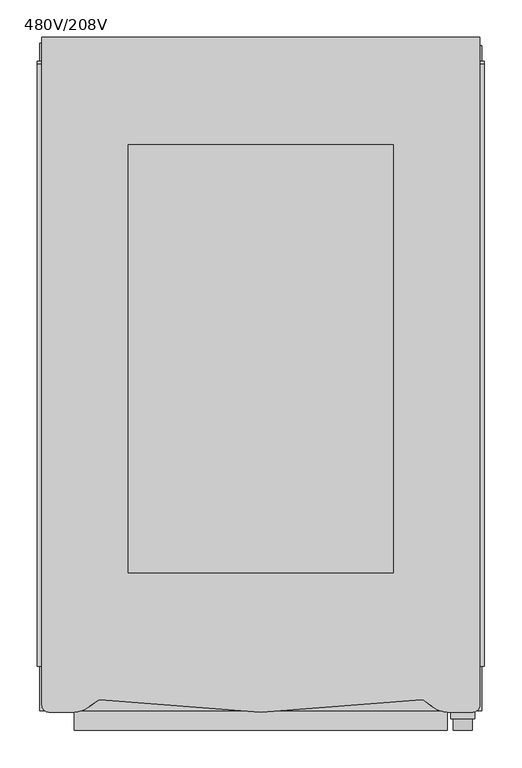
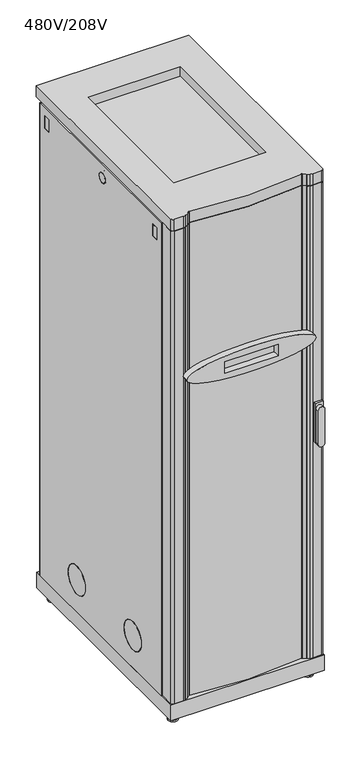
"""IFC4 building model written with IfcOpenShell, lengths in millimetres: proxy geometry, PD40G6FK1-M_-_InfraStruxure_PDU_40kW,_480V_In,_208V_Out_with_MBP_BIM_MODEL : 480V/208V."""

import ifcopenshell
import ifcopenshell.guid

model = None  # the IFC model being written
_history = None  # IfcOwnerHistory: only IFC2X3 demands one
_inside = {}  # id of a spatial element -> (the spatial element, [elements in it])
_under = {}  # id of a project, library or spatial element -> (it, [spatial elements below it])
_declared = {}  # id of a project -> (the project, [libraries it declares])
_typed = {}  # id of a type object -> (the type object, [elements of that type])
_made_of = {}  # id of a material, layer set ... -> (it, [elements and type objects made of it])


def new_model(schema):
    """Start an empty IFC model of exactly this schema.

    Asked for "IFC4X3", IfcOpenShell would pick the latest addendum, in which some entities
    have other attributes; the version numbers below select the first issue.
    IFC2X3 requires an IfcOwnerHistory on every rooted entity: one is made here for all.
    """
    global model, _history
    if schema == "IFC4X3":
        model = ifcopenshell.file(schema_version=(4, 3, 0, 0))
    else:
        model = ifcopenshell.file(schema=schema)
    _inside.clear()
    _under.clear()
    _declared.clear()
    _typed.clear()
    _made_of.clear()
    _history = None
    if model.schema == "IFC2X3":
        org = make("IfcOrganization", Name="unknown")
        user = make(
            "IfcPersonAndOrganization",
            ThePerson=make("IfcPerson", FamilyName="unknown"),
            TheOrganization=org,
        )
        app = make(
            "IfcApplication",
            ApplicationDeveloper=org,
            Version="unknown",
            ApplicationFullName="unknown",
            ApplicationIdentifier="unknown",
        )
        _history = make(
            "IfcOwnerHistory",
            OwningUser=user,
            OwningApplication=app,
            ChangeAction="ADDED",
            CreationDate=0,
        )
    return model


def make(cls, **values):
    """One entity of the class cls with the attributes given. An attribute that is None is left unset."""
    return model.create_entity(
        cls, **{name: value for name, value in values.items() if value is not None}
    )


def rooted(cls, **values):
    """An entity with a GlobalId (a new one), such as an element, a storey or a relation."""
    return make(cls, GlobalId=ifcopenshell.guid.new(), OwnerHistory=_history, **values)


def si_unit(unit_type, name, prefix=None):
    """IfcSIUnit, for example si_unit("LENGTHUNIT", "METRE", prefix="MILLI")."""
    return make("IfcSIUnit", UnitType=unit_type, Prefix=prefix, Name=name)


def assignment(units):
    """IfcUnitAssignment: the units of a project."""
    return None if units is None else make("IfcUnitAssignment", Units=units)


def point(xyz):
    """IfcCartesianPoint."""
    return None if xyz is None else make("IfcCartesianPoint", Coordinates=xyz)


def direction(xyz):
    """IfcDirection."""
    return None if xyz is None else make("IfcDirection", DirectionRatios=xyz)


def frame(location, z_axis=None, x_axis=None):
    """IfcAxis2Placement3D, a coordinate frame: its origin and axes. An axis left out is left unset."""
    return make(
        "IfcAxis2Placement3D",
        Location=point(location),
        Axis=direction(z_axis),
        RefDirection=direction(x_axis),
    )


def frame_2d(location, x_axis=None):
    """IfcAxis2Placement2D, a coordinate frame in the plane: its origin and x axis."""
    return make(
        "IfcAxis2Placement2D", Location=point(location), RefDirection=direction(x_axis)
    )


def origin():
    """The frame at (0, 0, 0) with its axes left unset."""
    return frame((0.0, 0.0, 0.0))


def origin_with_axes():
    """The frame at (0, 0, 0) with the z axis (0, 0, 1) and the x axis (1, 0, 0) written out."""
    return frame((0.0, 0.0, 0.0), z_axis=(0.0, 0.0, 1.0), x_axis=(1.0, 0.0, 0.0))


def place(relative_to, where):
    """IfcLocalPlacement: puts the frame where relative to a parent placement (None: the world)."""
    return make(
        "IfcLocalPlacement", PlacementRelTo=relative_to, RelativePlacement=where
    )


def context(
    kind, dimensions, precision=None, world=None, true_north=None, identifier=None
):
    """IfcGeometricRepresentationContext, for example the 3D "Model" context."""
    return make(
        "IfcGeometricRepresentationContext",
        ContextIdentifier=identifier,
        ContextType=kind,
        CoordinateSpaceDimension=dimensions,
        Precision=precision,
        WorldCoordinateSystem=world,
        TrueNorth=true_north,
    )


def project(units=None, contexts=None):
    """IfcProject with its units and contexts."""
    return rooted(
        "IfcProject",
        Name="project",
        RepresentationContexts=contexts,
        UnitsInContext=assignment(units),
    )


def spatial(cls, under=None, at=None, **own):
    """A site, building, storey or space (cls), placed at a placement, below another one or the project."""
    s = rooted(cls, ObjectPlacement=at, **own)
    if under is not None:
        _under.setdefault(under.id(), (under, []))[1].append(s)
    return s


def polyline(points):
    """IfcPolyline through the points."""
    return make("IfcPolyline", Points=[point(p) for p in points])


def circle_curve(where, radius):
    """IfcCircle in the frame where."""
    return make("IfcCircle", Position=where, Radius=radius)


def ellipse_curve(where, semi_axis1, semi_axis2):
    """IfcEllipse in the frame where."""
    return make(
        "IfcEllipse", Position=where, SemiAxis1=semi_axis1, SemiAxis2=semi_axis2
    )


def trimmed(basis, trim1, trim2, sense, master):
    """IfcTrimmedCurve: the piece of a basis curve between two trims."""
    return make(
        "IfcTrimmedCurve",
        BasisCurve=basis,
        Trim1=trim1,
        Trim2=trim2,
        SenseAgreement=sense,
        MasterRepresentation=master,
    )


def segment(curve, same_sense, transition):
    """IfcCompositeCurveSegment."""
    return make(
        "IfcCompositeCurveSegment",
        Transition=transition,
        SameSense=same_sense,
        ParentCurve=curve,
    )


def composite_curve(segments, self_intersect=None):
    """IfcCompositeCurve: segments joined end to end."""
    return make("IfcCompositeCurve", Segments=segments, SelfIntersect=self_intersect)


def outline(outer, holes=None, kind="AREA"):
    """IfcArbitraryClosedProfileDef: a profile drawn as a closed curve; with holes, ...WithVoids."""
    if holes is None:
        return make("IfcArbitraryClosedProfileDef", ProfileType=kind, OuterCurve=outer)
    return make(
        "IfcArbitraryProfileDefWithVoids",
        ProfileType=kind,
        OuterCurve=outer,
        InnerCurves=holes,
    )


def extrude(swept, where, along, depth):
    """IfcExtrudedAreaSolid: the profile swept, set in the frame where, extruded along a direction by depth."""
    return make(
        "IfcExtrudedAreaSolid",
        SweptArea=swept,
        Position=where,
        ExtrudedDirection=direction(along),
        Depth=depth,
    )


def shape(context_of_items, identifier, shape_type, items):
    """IfcShapeRepresentation: the items that make up one representation, for example the "Body"."""
    return make(
        "IfcShapeRepresentation",
        ContextOfItems=context_of_items,
        RepresentationIdentifier=identifier,
        RepresentationType=shape_type,
        Items=items,
    )


def source(mapping_origin, context_of_items, identifier, shape_type, items):
    """IfcRepresentationMap: a shape defined once, which mapped items show again and again."""
    return make(
        "IfcRepresentationMap",
        MappingOrigin=mapping_origin,
        MappedRepresentation=shape(context_of_items, identifier, shape_type, items),
    )


def transform(
    local_origin,
    x_axis=None,
    y_axis=None,
    z_axis=None,
    scale=None,
    scale2=None,
    scale3=None,
    uniform=True,
):
    """IfcCartesianTransformationOperator3D, or its non-uniform kind. x_axis, y_axis, z_axis: its Axis1, 2, 3."""
    if uniform:
        return make(
            "IfcCartesianTransformationOperator3D",
            Axis1=direction(x_axis),
            Axis2=direction(y_axis),
            LocalOrigin=point(local_origin),
            Scale=scale,
            Axis3=direction(z_axis),
        )
    return make(
        "IfcCartesianTransformationOperator3DnonUniform",
        Axis1=direction(x_axis),
        Axis2=direction(y_axis),
        LocalOrigin=point(local_origin),
        Scale=scale,
        Axis3=direction(z_axis),
        Scale2=scale2,
        Scale3=scale3,
    )


def mapped(mapping_source, mapping_target):
    """IfcMappedItem: shows the shape of a source again, moved by a transform."""
    return make(
        "IfcMappedItem", MappingSource=mapping_source, MappingTarget=mapping_target
    )


def made_of(thing, what):
    """Note that an element or type object is made of a material, layer set ...; save() writes the relation."""
    if what is not None:
        _made_of.setdefault(what.id(), (what, []))[1].append(thing)
    return thing


def element(
    cls,
    number,
    at=None,
    inside=None,
    cuts=None,
    type_object=None,
    material=None,
    context=None,
    identifier="Body",
    shape_type=None,
    held_by="IfcProductDefinitionShape",
    body=None,
    shapes=None,
    **own,
):
    """One element of the class cls, such as IfcWall. Its Tag is "e" and its number.

    at: its placement. inside: the storey or other place that contains it. cuts: it is an
    opening in that element (IfcRelVoidsElement). A single representation is given by context,
    identifier, shape_type and body (its items); several are given by shapes. held_by: the class
    of the entity that holds the representations. save() writes the other relations.
    """
    e = rooted(cls, Tag="e%d" % number, ObjectPlacement=at, **own)
    if body is not None:
        shapes = [shape(context, identifier, shape_type, body)]
    if shapes is not None:
        e.Representation = make(held_by, Representations=shapes)
    if inside is not None:
        _inside.setdefault(inside.id(), (inside, []))[1].append(e)
    if cuts is not None:
        rooted(
            "IfcRelVoidsElement", RelatingBuildingElement=cuts, RelatedOpeningElement=e
        )
    if type_object is not None:
        _typed.setdefault(type_object.id(), (type_object, []))[1].append(e)
    return made_of(e, material)


def aggregate(whole, parts):
    """IfcRelAggregates: a whole, such as a stair, and the parts it consists of."""
    return rooted("IfcRelAggregates", RelatingObject=whole, RelatedObjects=parts)


def save(model, path):
    """Write the relations noted so far, then the file.

    IfcRelAggregates (storeys below a building ...), IfcRelContainedInSpatialStructure (elements
    in a storey), IfcRelDefinesByType, IfcRelAssociatesMaterial and IfcRelDeclares: one each for
    every whole, place, type object, material and project.
    """
    for whole, parts in _under.values():
        aggregate(whole, parts)
    for where, things in _inside.values():
        rooted(
            "IfcRelContainedInSpatialStructure",
            RelatedElements=things,
            RelatingStructure=where,
        )
    for kind, things in _typed.values():
        rooted("IfcRelDefinesByType", RelatedObjects=things, RelatingType=kind)
    for what, things in _made_of.values():
        rooted("IfcRelAssociatesMaterial", RelatedObjects=things, RelatingMaterial=what)
    for by, libraries in _declared.values():
        rooted("IfcRelDeclares", RelatingContext=by, RelatedDefinitions=libraries)
    model.write(path)


def plane_surface(at):
    """IfcPlane: the flat surface through the origin of the frame at, square to its z axis."""
    return make("IfcPlane", Position=at)


def extruded_surface(curve, direction_of_extrusion, depth):
    """IfcSurfaceOfLinearExtrusion: the curve pushed along a direction by depth."""
    return make(
        "IfcSurfaceOfLinearExtrusion",
        SweptCurve=make("IfcArbitraryOpenProfileDef", ProfileType="CURVE", Curve=curve),
        ExtrudedDirection=direction(direction_of_extrusion),
        Depth=depth,
    )


def advanced_brep(points, edges, surfaces, faces):
    """IfcAdvancedBrep: a solid bounded by faces that lie on surfaces and meet in shared edges.

    An edge is (start, end): straight between two places in points (the first is 0);
    or (start, end, curve); or (start, end, curve, False) where it runs against its curve.
    A face is (place in surfaces, loops), or (place, loops, False) where it looks against
    its surface's normal. A loop lists edges by number (the first is 1), with a minus sign
    where the edge is run from its end to its start. The first loop is the outer one.
    """
    corners = [point(p) for p in points]
    vertices = [make("IfcVertexPoint", VertexGeometry=c) for c in corners]
    made = []
    for start, end, *more in edges:
        made.append(
            make(
                "IfcEdgeCurve",
                EdgeStart=vertices[start],
                EdgeEnd=vertices[end],
                EdgeGeometry=more[0] if more else make("IfcPolyline", Points=[corners[start], corners[end]]),
                SameSense=more[1] if len(more) > 1 else True,
            )
        )
    hull = []
    for where, loops, *sense in faces:
        bounds = []
        for j, loop in enumerate(loops):
            ring = [make("IfcOrientedEdge", EdgeElement=made[abs(k) - 1], Orientation=k > 0) for k in loop]
            bounds.append(
                make(
                    "IfcFaceOuterBound" if j == 0 else "IfcFaceBound",
                    Bound=make("IfcEdgeLoop", EdgeList=ring),
                    Orientation=True,
                )
            )
        hull.append(make("IfcAdvancedFace", Bounds=bounds, FaceSurface=surfaces[where], SameSense=sense[0] if sense else True))
    return make("IfcAdvancedBrep", Outer=make("IfcClosedShell", CfsFaces=hull))


def proxy_480v_208v_dbe15ef4(model_context):
    return source(origin(), model_context, "Body", "SolidModel", [
        extrude(outline(polyline([(414.7000054, 99.702742), (-389.5082623, 99.702742), (-389.5082623, 2021.2590782), (414.7000054, 2021.2590782), (414.7000054, 99.702742)]), holes=[composite_curve([segment(trimmed(circle_curve(frame_2d((-201.3783083, 230.7999995)), 57.1499999), [point((-258.5283082, 230.7999995))], [point((-144.2283084, 230.7999995))], True, "CARTESIAN"), True, "CONTINUOUS"), segment(trimmed(circle_curve(frame_2d((-201.3783083, 230.7999995)), 57.1499999), [point((-144.2283084, 230.7999995))], [point((-258.5283082, 230.7999995))], True, "CARTESIAN"), True, "CONTINUOUS")], self_intersect=False), composite_curve([segment(trimmed(circle_curve(frame_2d((171.2953487, 230.7999995)), 57.1499999), [point((114.1453488, 230.7999995))], [point((228.4453485, 230.7999995))], True, "CARTESIAN"), True, "CONTINUOUS"), segment(trimmed(circle_curve(frame_2d((171.2953487, 230.7999995)), 57.1499999), [point((228.4453485, 230.7999995))], [point((114.1453488, 230.7999995))], True, "CARTESIAN"), True, "CONTINUOUS")], self_intersect=False), composite_curve([segment(trimmed(circle_curve(frame_2d((1.9235813, 1968.4381228)), 20.2017411), [point((-18.2781598, 1968.4381228))], [point((22.1253224, 1968.4381228))], True, "CARTESIAN"), True, "CONTINUOUS"), segment(trimmed(circle_curve(frame_2d((1.9235813, 1968.4381228)), 20.2017411), [point((22.1253224, 1968.4381228))], [point((-18.2781598, 1968.4381228))], True, "CARTESIAN"), True, "CONTINUOUS")], self_intersect=False), polyline([(-361.9797683, 1937.7537767), (-335.0558222, 1937.7537767), (-335.0558222, 1986.7756787), (-361.9797683, 1986.7756787), (-361.9797683, 1937.7537767)]), polyline([(358.6741861, 1938.5244816), (384.174186, 1938.5244816), (384.174186, 1988.5463835), (358.6741861, 1988.5463835), (358.6741861, 1938.5244816)])]), frame((285.0, 0.0, 0.0), z_axis=(1.0, 0.0, 0.0), x_axis=(0.0, 1.0, 0.0)), (0.0, 0.0, 1.0), 13.5),
        extrude(outline(composite_curve([segment(trimmed(circle_curve(frame_2d((171.2953487, 230.7999995)), 56.1499999), [point((227.4453485, 230.7999995))], [point((115.1453488, 230.7999995))], False, "CARTESIAN"), True, "CONTINUOUS"), segment(trimmed(circle_curve(frame_2d((171.2953487, 230.7999995)), 56.1499999), [point((115.1453488, 230.7999995))], [point((227.4453485, 230.7999995))], False, "CARTESIAN"), True, "CONTINUOUS")], self_intersect=False)), frame((285.0, 0.0, 0.0), z_axis=(1.0, 0.0, 0.0), x_axis=(0.0, 1.0, 0.0)), (0.0, 0.0, 1.0), 13.5),
        extrude(outline(composite_curve([segment(trimmed(circle_curve(frame_2d((-201.3783083, 230.7999995)), 56.1499999), [point((-257.5283082, 230.7999995))], [point((-145.2283084, 230.7999995))], False, "CARTESIAN"), True, "CONTINUOUS"), segment(trimmed(circle_curve(frame_2d((-201.3783083, 230.7999995)), 56.1499999), [point((-145.2283084, 230.7999995))], [point((-257.5283082, 230.7999995))], False, "CARTESIAN"), True, "CONTINUOUS")], self_intersect=False)), frame((285.0, 0.0, 0.0), z_axis=(1.0, 0.0, 0.0), x_axis=(0.0, 1.0, 0.0)), (0.0, 0.0, 1.0), 13.5),
        extrude(outline(polyline([(285.0, 359.6741861), (285.0, 383.174186), (298.5, 383.174186), (298.5, 359.6741861), (285.0, 359.6741861)])), frame((0.0, 0.0, 1939.5275841), z_axis=(0.0, 0.0, 1.0), x_axis=(1.0, 0.0, 0.0)), (0.0, 0.0, 1.0), 48.0187994),
        extrude(outline(composite_curve([segment(trimmed(circle_curve(frame_2d((1.9235813, 1968.4381228)), 19.2017411), [point((21.1253224, 1968.4381228))], [point((-17.2781598, 1968.4381228))], False, "CARTESIAN"), True, "CONTINUOUS"), segment(trimmed(circle_curve(frame_2d((1.9235813, 1968.4381228)), 19.2017411), [point((-17.2781598, 1968.4381228))], [point((21.1253224, 1968.4381228))], False, "CARTESIAN"), True, "CONTINUOUS")], self_intersect=False)), frame((285.0, 0.0, 0.0), z_axis=(1.0, 0.0, 0.0), x_axis=(0.0, 1.0, 0.0)), (0.0, 0.0, 1.0), 13.5),
        extrude(outline(polyline([(285.0, -360.9317847), (285.0, -336.0095212), (298.5, -336.0095212), (298.5, -360.9317847), (285.0, -360.9317847)])), frame((0.0, 0.0, 1938.7718505), z_axis=(0.0, 0.0, 1.0), x_axis=(1.0, 0.0, 0.0)), (0.0, 0.0, 1.0), 47.0038282),
        extrude(outline(polyline([(-167.0499998, -322.6499942), (-167.0499998, 440.0415445), (167.0499998, 440.0415445), (167.0499998, -322.6499942), (-167.0499998, -322.6499942)])), frame((0.0, 0.0, 32.5499999), z_axis=(0.0, 0.0, 1.0), x_axis=(1.0, 0.0, 0.0)), (0.0, 0.0, 1.0), 60.2999999),
        extrude(outline(polyline([(-295.2744088, -448.9566775), (-295.2744088, 443.2000045), (-167.0499998, 443.2000045), (-167.0499998, -322.6499942), (167.0499998, -322.6499942), (167.0499998, 440.0415445), (295.2744088, 440.0415445), (295.2744088, -448.9566775), (-295.2744088, -448.9566775)]), holes=[composite_curve([segment(trimmed(circle_curve(frame_2d((241.9999995, -165.9499942)), 29.9999999), [point((241.9999995, -195.9499942))], [point((241.9999995, -135.9499943))], True, "CARTESIAN"), True, "CONTINUOUS"), segment(polyline([(241.9999995, -135.9499943), (219.5999996, -135.9499943)]), True, "CONTINUOUS"), segment(trimmed(circle_curve(frame_2d((219.5999996, -165.9499942)), 29.9999999), [point((219.5999996, -135.9499943))], [point((219.5999996, -195.9499942))], True, "CARTESIAN"), True, "CONTINUOUS"), segment(polyline([(219.5999996, -195.9499942), (241.9999995, -195.9499942)]), True, "CONTINUOUS")], self_intersect=False), composite_curve([segment(trimmed(circle_curve(frame_2d((241.9999995, 160.0500051)), 29.9999999), [point((241.9999995, 130.0500052))], [point((241.9999995, 190.0500051))], True, "CARTESIAN"), True, "CONTINUOUS"), segment(polyline([(241.9999995, 190.0500051), (219.5999996, 190.0500051)]), True, "CONTINUOUS"), segment(trimmed(circle_curve(frame_2d((219.5999996, 160.0500051)), 29.9999999), [point((219.5999996, 190.0500051))], [point((219.5999996, 130.0500052))], True, "CARTESIAN"), True, "CONTINUOUS"), segment(polyline([(219.5999996, 130.0500052), (241.9999995, 130.0500052)]), True, "CONTINUOUS")], self_intersect=False), composite_curve([segment(trimmed(circle_curve(frame_2d((-219.5999996, 160.0500051)), 29.9999999), [point((-219.5999996, 130.0500052))], [point((-219.5999996, 190.0500051))], True, "CARTESIAN"), True, "CONTINUOUS"), segment(polyline([(-219.5999996, 190.0500051), (-241.9999995, 190.0500051)]), True, "CONTINUOUS"), segment(trimmed(circle_curve(frame_2d((-241.9999995, 160.0500051)), 29.9999999), [point((-241.9999995, 190.0500051))], [point((-241.9999995, 130.0500052))], True, "CARTESIAN"), True, "CONTINUOUS"), segment(polyline([(-241.9999995, 130.0500052), (-219.5999996, 130.0500052)]), True, "CONTINUOUS")], self_intersect=False), composite_curve([segment(trimmed(circle_curve(frame_2d((-241.9999995, -165.9499942)), 30.9999999), [point((-241.9999995, -134.9499943))], [point((-241.9999995, -196.9499942))], True, "CARTESIAN"), True, "CONTINUOUS"), segment(polyline([(-241.9999995, -196.9499942), (-219.5999996, -196.9499942)]), True, "CONTINUOUS"), segment(trimmed(circle_curve(frame_2d((-219.5999996, -165.9499942)), 30.9999999), [point((-219.5999996, -196.9499942))], [point((-219.5999996, -134.9499943))], True, "CARTESIAN"), True, "CONTINUOUS"), segment(polyline([(-219.5999996, -134.9499943), (-241.9999995, -134.9499943)]), True, "CONTINUOUS")], self_intersect=False)]), frame((0.0, 0.0, 32.5499999), z_axis=(0.0, 0.0, 1.0), x_axis=(1.0, 0.0, 0.0)), (0.0, 0.0, 1.0), 62.7001682),
        extrude(outline(composite_curve([segment(trimmed(circle_curve(frame_2d((-219.5999996, -165.9499942)), 29.9999999), [point((-219.5999996, -135.9499943))], [point((-219.5999996, -195.9499942))], False, "CARTESIAN"), True, "CONTINUOUS"), segment(polyline([(-219.5999996, -195.9499942), (-241.9999995, -195.9499942)]), True, "CONTINUOUS"), segment(trimmed(circle_curve(frame_2d((-241.9999995, -165.9499942)), 29.9999999), [point((-241.9999995, -195.9499942))], [point((-241.9999995, -135.9499943))], False, "CARTESIAN"), True, "CONTINUOUS"), segment(polyline([(-241.9999995, -135.9499943), (-219.5999996, -135.9499943)]), True, "CONTINUOUS")], self_intersect=False)), frame((0.0, 0.0, 32.5499999), z_axis=(0.0, 0.0, 1.0), x_axis=(1.0, 0.0, 0.0)), (0.0, 0.0, 1.0), 62.7001682),
        extrude(outline(composite_curve([segment(trimmed(circle_curve(frame_2d((-219.5999996, 160.0500051)), 28.9999999), [point((-219.5999996, 189.0500051))], [point((-219.5999996, 131.0500052))], False, "CARTESIAN"), True, "CONTINUOUS"), segment(polyline([(-219.5999996, 131.0500052), (-241.9999995, 131.0500052)]), True, "CONTINUOUS"), segment(trimmed(circle_curve(frame_2d((-241.9999995, 160.0500051)), 28.9999999), [point((-241.9999995, 131.0500052))], [point((-241.9999995, 189.0500051))], False, "CARTESIAN"), True, "CONTINUOUS"), segment(polyline([(-241.9999995, 189.0500051), (-219.5999996, 189.0500051)]), True, "CONTINUOUS")], self_intersect=False)), frame((0.0, 0.0, 32.5499999), z_axis=(0.0, 0.0, 1.0), x_axis=(1.0, 0.0, 0.0)), (0.0, 0.0, 1.0), 62.7001682),
        extrude(outline(composite_curve([segment(polyline([(219.5999996, 189.0500051), (241.9999995, 189.0500051)]), True, "CONTINUOUS"), segment(trimmed(circle_curve(frame_2d((241.9999995, 160.0500051)), 28.9999999), [point((241.9999995, 189.0500051))], [point((241.9999995, 131.0500052))], False, "CARTESIAN"), True, "CONTINUOUS"), segment(polyline([(241.9999995, 131.0500052), (219.5999996, 131.0500052)]), True, "CONTINUOUS"), segment(trimmed(circle_curve(frame_2d((219.5999996, 160.0500051)), 28.9999999), [point((219.5999996, 131.0500052))], [point((219.5999996, 189.0500051))], False, "CARTESIAN"), True, "CONTINUOUS")], self_intersect=False)), frame((0.0, 0.0, 32.5499999), z_axis=(0.0, 0.0, 1.0), x_axis=(1.0, 0.0, 0.0)), (0.0, 0.0, 1.0), 62.7001682),
        extrude(outline(composite_curve([segment(polyline([(219.5999996, -136.9499943), (241.9999995, -136.9499943)]), True, "CONTINUOUS"), segment(trimmed(circle_curve(frame_2d((241.9999995, -165.9499942)), 28.9999999), [point((241.9999995, -136.9499943))], [point((241.9999995, -194.9499942))], False, "CARTESIAN"), True, "CONTINUOUS"), segment(polyline([(241.9999995, -194.9499942), (219.5999996, -194.9499942)]), True, "CONTINUOUS"), segment(trimmed(circle_curve(frame_2d((219.5999996, -165.9499942)), 28.9999999), [point((219.5999996, -194.9499942))], [point((219.5999996, -136.9499943))], False, "CARTESIAN"), True, "CONTINUOUS")], self_intersect=False)), frame((0.0, 0.0, 32.5499999), z_axis=(0.0, 0.0, 1.0), x_axis=(1.0, 0.0, 0.0)), (0.0, 0.0, 1.0), 62.7001682),
        extrude(outline(polyline([(261.8792345, 381.8662109), (-263.2951447, 381.8662109), (-263.2951447, 414.7000054), (261.8792345, 414.7000054), (261.8792345, 381.8662109)])), frame((0.0, 0.0, 132.0499997), z_axis=(0.0, 0.0, 1.0), x_axis=(1.0, 0.0, 0.0)), (0.0, 0.0, 1.0), 1869.9999962),
        extrude(outline(polyline([(414.7000054, 99.702742), (-389.5082623, 99.702742), (-389.5082623, 2021.2590782), (414.7000054, 2021.2590782), (414.7000054, 99.702742)]), holes=[composite_curve([segment(trimmed(circle_curve(frame_2d((-201.3783083, 230.7999995)), 57.1499999), [point((-258.5283082, 230.7999995))], [point((-144.2283084, 230.7999995))], True, "CARTESIAN"), True, "CONTINUOUS"), segment(trimmed(circle_curve(frame_2d((-201.3783083, 230.7999995)), 57.1499999), [point((-144.2283084, 230.7999995))], [point((-258.5283082, 230.7999995))], True, "CARTESIAN"), True, "CONTINUOUS")], self_intersect=False), composite_curve([segment(trimmed(circle_curve(frame_2d((171.2953487, 230.7999995)), 57.1499999), [point((114.1453488, 230.7999995))], [point((228.4453485, 230.7999995))], True, "CARTESIAN"), True, "CONTINUOUS"), segment(trimmed(circle_curve(frame_2d((171.2953487, 230.7999995)), 57.1499999), [point((228.4453485, 230.7999995))], [point((114.1453488, 230.7999995))], True, "CARTESIAN"), True, "CONTINUOUS")], self_intersect=False), composite_curve([segment(trimmed(circle_curve(frame_2d((1.9235813, 1968.4381228)), 20.2017411), [point((-18.2781598, 1968.4381228))], [point((22.1253224, 1968.4381228))], True, "CARTESIAN"), True, "CONTINUOUS"), segment(trimmed(circle_curve(frame_2d((1.9235813, 1968.4381228)), 20.2017411), [point((22.1253224, 1968.4381228))], [point((-18.2781598, 1968.4381228))], True, "CARTESIAN"), True, "CONTINUOUS")], self_intersect=False), polyline([(-361.9797683, 1937.7537767), (-335.0558222, 1937.7537767), (-335.0558222, 1986.7756787), (-361.9797683, 1986.7756787), (-361.9797683, 1937.7537767)]), polyline([(358.6741861, 1938.5244816), (384.174186, 1938.5244816), (384.174186, 1988.5463835), (358.6741861, 1988.5463835), (358.6741861, 1938.5244816)])]), frame((-298.5, 0.0, 0.0), z_axis=(1.0, 0.0, 0.0), x_axis=(0.0, 1.0, 0.0)), (0.0, 0.0, 1.0), 13.5),
        extrude(outline(composite_curve([segment(trimmed(circle_curve(frame_2d((171.2953487, 230.7999995)), 56.1499999), [point((227.4453485, 230.7999995))], [point((115.1453488, 230.7999995))], False, "CARTESIAN"), True, "CONTINUOUS"), segment(trimmed(circle_curve(frame_2d((171.2953487, 230.7999995)), 56.1499999), [point((115.1453488, 230.7999995))], [point((227.4453485, 230.7999995))], False, "CARTESIAN"), True, "CONTINUOUS")], self_intersect=False)), frame((-298.5, 0.0, 0.0), z_axis=(1.0, 0.0, 0.0), x_axis=(0.0, 1.0, 0.0)), (0.0, 0.0, 1.0), 13.5),
        extrude(outline(composite_curve([segment(trimmed(circle_curve(frame_2d((-201.3783083, 230.7999995)), 56.1499999), [point((-257.5283082, 230.7999995))], [point((-145.2283084, 230.7999995))], False, "CARTESIAN"), True, "CONTINUOUS"), segment(trimmed(circle_curve(frame_2d((-201.3783083, 230.7999995)), 56.1499999), [point((-145.2283084, 230.7999995))], [point((-257.5283082, 230.7999995))], False, "CARTESIAN"), True, "CONTINUOUS")], self_intersect=False)), frame((-298.5, 0.0, 0.0), z_axis=(1.0, 0.0, 0.0), x_axis=(0.0, 1.0, 0.0)), (0.0, 0.0, 1.0), 13.5),
        extrude(outline(polyline([(-285.0, 383.174186), (-285.0, 359.6741861), (-298.5, 359.6741861), (-298.5, 383.174186), (-285.0, 383.174186)])), frame((0.0, 0.0, 1939.5275841), z_axis=(0.0, 0.0, 1.0), x_axis=(1.0, 0.0, 0.0)), (0.0, 0.0, 1.0), 48.0187994),
        extrude(outline(composite_curve([segment(trimmed(circle_curve(frame_2d((1.9235813, 1968.4381228)), 19.2017411), [point((21.1253224, 1968.4381228))], [point((-17.2781598, 1968.4381228))], False, "CARTESIAN"), True, "CONTINUOUS"), segment(trimmed(circle_curve(frame_2d((1.9235813, 1968.4381228)), 19.2017411), [point((-17.2781598, 1968.4381228))], [point((21.1253224, 1968.4381228))], False, "CARTESIAN"), True, "CONTINUOUS")], self_intersect=False)), frame((-298.5, 0.0, 0.0), z_axis=(1.0, 0.0, 0.0), x_axis=(0.0, 1.0, 0.0)), (0.0, 0.0, 1.0), 13.5),
        extrude(outline(polyline([(-285.0, -336.0095212), (-285.0, -360.9317847), (-298.5, -360.9317847), (-298.5, -336.0095212), (-285.0, -336.0095212)])), frame((0.0, 0.0, 1938.7718505), z_axis=(0.0, 0.0, 1.0), x_axis=(1.0, 0.0, 0.0)), (0.0, 0.0, 1.0), 47.0038282),
        extrude(outline(polyline([(2021.2590782, 298.5), (2021.2590782, -298.5), (99.702742, -298.5), (99.702742, 298.5), (2021.2590782, 298.5)]), holes=[polyline([(2002.0499959, 259.5), (132.0499997, 259.5), (132.0499997, -259.5), (2002.0499959, -259.5), (2002.0499959, 259.5)])]), frame((0.0, 381.8662109, 0.0), z_axis=(0.0, 1.0, 0.0), x_axis=(0.0, 0.0, 1.0)), (0.0, 0.0, 1.0), 37.0058548),
        extrude(outline(composite_curve([segment(trimmed(circle_curve(frame_2d((-259.5, 398.0000054)), 4.445), [point((-258.712602, 393.6253021))], [point((-260.287402, 393.6253028))], False, "CARTESIAN"), True, "CONTINUOUS"), segment(trimmed(circle_curve(frame_2d((-259.5, 398.0000054)), 4.445), [point((-260.287402, 393.6253028))], [point((-260.287398, 402.3747088))], False, "CARTESIAN"), True, "CONTINUOUS"), segment(trimmed(circle_curve(frame_2d((-259.5, 398.0000054)), 4.445), [point((-260.287398, 402.3747088))], [point((-258.712598, 402.3747081))], False, "CARTESIAN"), True, "CONTINUOUS"), segment(trimmed(circle_curve(frame_2d((-259.5, 398.0000054)), 4.445), [point((-258.712598, 402.3747081))], [point((-258.712602, 393.6253021))], False, "CARTESIAN"), True, "CONTINUOUS")], self_intersect=False)), frame((0.0, 0.0, 5.3402431), z_axis=(0.0, 0.0, 1.0), x_axis=(1.0, 0.0, 0.0)), (0.0, 0.0, 1.0), 27.2097569),
        extrude(outline(composite_curve([segment(trimmed(circle_curve(frame_2d((259.5, 398.0000054)), 4.445), [point((258.712602, 393.6253021))], [point((258.712598, 402.3747081))], False, "CARTESIAN"), True, "CONTINUOUS"), segment(trimmed(circle_curve(frame_2d((259.5, 398.0000054)), 4.445), [point((258.712598, 402.3747081))], [point((260.287398, 402.3747088))], False, "CARTESIAN"), True, "CONTINUOUS"), segment(trimmed(circle_curve(frame_2d((259.5, 398.0000054)), 4.445), [point((260.287398, 402.3747088))], [point((260.287402, 393.6253028))], False, "CARTESIAN"), True, "CONTINUOUS"), segment(trimmed(circle_curve(frame_2d((259.5, 398.0000054)), 4.445), [point((260.287402, 393.6253028))], [point((258.712602, 393.6253021))], False, "CARTESIAN"), True, "CONTINUOUS")], self_intersect=False)), frame((0.0, 0.0, 5.3402431), z_axis=(0.0, 0.0, 1.0), x_axis=(1.0, 0.0, 0.0)), (0.0, 0.0, 1.0), 27.2097569),
        extrude(outline(composite_curve([segment(trimmed(circle_curve(frame_2d((-259.5, -399.9999946)), 4.445), [point((-258.712602, -395.6252912))], [point((-258.712598, -404.3746972))], False, "CARTESIAN"), True, "CONTINUOUS"), segment(trimmed(circle_curve(frame_2d((-259.5, -399.9999946)), 4.445), [point((-258.712598, -404.3746972))], [point((-260.287398, -404.3746979))], False, "CARTESIAN"), True, "CONTINUOUS"), segment(trimmed(circle_curve(frame_2d((-259.5, -399.9999946)), 4.445), [point((-260.287398, -404.3746979))], [point((-260.287402, -395.6252919))], False, "CARTESIAN"), True, "CONTINUOUS"), segment(trimmed(circle_curve(frame_2d((-259.5, -399.9999946)), 4.445), [point((-260.287402, -395.6252919))], [point((-258.712602, -395.6252912))], False, "CARTESIAN"), True, "CONTINUOUS")], self_intersect=False)), frame((0.0, 0.0, 5.3402431), z_axis=(0.0, 0.0, 1.0), x_axis=(1.0, 0.0, 0.0)), (0.0, 0.0, 1.0), 27.2097569),
        extrude(outline(composite_curve([segment(trimmed(circle_curve(frame_2d((259.5, -399.9999946)), 4.445), [point((258.712602, -395.6252912))], [point((260.287402, -395.6252919))], False, "CARTESIAN"), True, "CONTINUOUS"), segment(trimmed(circle_curve(frame_2d((259.5, -399.9999946)), 4.445), [point((260.287402, -395.6252919))], [point((260.287398, -404.3746979))], False, "CARTESIAN"), True, "CONTINUOUS"), segment(trimmed(circle_curve(frame_2d((259.5, -399.9999946)), 4.445), [point((260.287398, -404.3746979))], [point((258.712598, -404.3746972))], False, "CARTESIAN"), True, "CONTINUOUS"), segment(trimmed(circle_curve(frame_2d((259.5, -399.9999946)), 4.445), [point((258.712598, -404.3746972))], [point((258.712602, -395.6252912))], False, "CARTESIAN"), True, "CONTINUOUS")], self_intersect=False)), frame((0.0, 0.0, 5.3402431), z_axis=(0.0, 0.0, 1.0), x_axis=(1.0, 0.0, 0.0)), (0.0, 0.0, 1.0), 27.2097569),
        extrude(outline(composite_curve([segment(trimmed(circle_curve(frame_2d((-259.5, -400.6779682)), 18.6944), [point((-278.1944, -400.6779682))], [point((-240.8056, -400.6779682))], False, "CARTESIAN"), True, "CONTINUOUS"), segment(trimmed(circle_curve(frame_2d((-259.5, -400.6779682)), 18.6944), [point((-240.8056, -400.6779682))], [point((-278.1944, -400.6779682))], False, "CARTESIAN"), True, "CONTINUOUS")], self_intersect=False)), origin_with_axes(), (0.0, 0.0, 1.0), 5.3402431),
        extrude(outline(composite_curve([segment(trimmed(circle_curve(frame_2d((259.5, -400.6779682)), 18.6944), [point((240.8056, -400.6779682))], [point((278.1944, -400.6779682))], False, "CARTESIAN"), True, "CONTINUOUS"), segment(trimmed(circle_curve(frame_2d((259.5, -400.6779682)), 18.6944), [point((278.1944, -400.6779682))], [point((240.8056, -400.6779682))], False, "CARTESIAN"), True, "CONTINUOUS")], self_intersect=False)), origin_with_axes(), (0.0, 0.0, 1.0), 5.3402431),
        extrude(outline(composite_curve([segment(trimmed(circle_curve(frame_2d((259.5, 398.0000054)), 18.6944), [point((240.8056, 398.0000054))], [point((278.1944, 398.0000054))], False, "CARTESIAN"), True, "CONTINUOUS"), segment(trimmed(circle_curve(frame_2d((259.5, 398.0000054)), 18.6944), [point((278.1944, 398.0000054))], [point((240.8056, 398.0000054))], False, "CARTESIAN"), True, "CONTINUOUS")], self_intersect=False)), origin_with_axes(), (0.0, 0.0, 1.0), 5.3402431),
        extrude(outline(composite_curve([segment(trimmed(circle_curve(frame_2d((-259.5, 398.0000054)), 18.6944), [point((-278.1944, 398.0000054))], [point((-240.8056, 398.0000054))], False, "CARTESIAN"), True, "CONTINUOUS"), segment(trimmed(circle_curve(frame_2d((-259.5, 398.0000054)), 18.6944), [point((-240.8056, 398.0000054))], [point((-278.1944, 398.0000054))], False, "CARTESIAN"), True, "CONTINUOUS")], self_intersect=False)), origin_with_axes(), (0.0, 0.0, 1.0), 5.3402431),
        extrude(outline(composite_curve([segment(trimmed(circle_curve(frame_2d((287.7927507, 31.7499365)), 31.7499365), [point((256.0428143, 31.7499365))], [point((319.5426872, 31.7499365))], False, "CARTESIAN"), True, "CONTINUOUS"), segment(trimmed(circle_curve(frame_2d((287.7927507, 31.7499365)), 31.7499365), [point((319.5426872, 31.7499365))], [point((256.0428143, 31.7499365))], False, "CARTESIAN"), True, "CONTINUOUS")], self_intersect=False)), frame((-245.0186832, 0.0, 0.0), z_axis=(1.0, 0.0, 0.0), x_axis=(0.0, 1.0, 0.0)), (0.0, 0.0, 1.0), 45.7999999),
        extrude(outline(composite_curve([segment(trimmed(circle_curve(frame_2d((-296.4060803, 31.7499365)), 31.7499365), [point((-328.1560167, 31.7499365))], [point((-264.6561438, 31.7499365))], False, "CARTESIAN"), True, "CONTINUOUS"), segment(trimmed(circle_curve(frame_2d((-296.4060803, 31.7499365)), 31.7499365), [point((-264.6561438, 31.7499365))], [point((-328.1560167, 31.7499365))], False, "CARTESIAN"), True, "CONTINUOUS")], self_intersect=False)), frame((-245.0186832, 0.0, 0.0), z_axis=(1.0, 0.0, 0.0), x_axis=(0.0, 1.0, 0.0)), (0.0, 0.0, 1.0), 45.7999999),
        extrude(outline(composite_curve([segment(trimmed(circle_curve(frame_2d((287.7927507, 31.7499365)), 31.7499365), [point((256.0428143, 31.7499365))], [point((319.5426872, 31.7499365))], False, "CARTESIAN"), True, "CONTINUOUS"), segment(trimmed(circle_curve(frame_2d((287.7927507, 31.7499365)), 31.7499365), [point((319.5426872, 31.7499365))], [point((256.0428143, 31.7499365))], False, "CARTESIAN"), True, "CONTINUOUS")], self_intersect=False)), frame((216.5813159, 0.0, 0.0), z_axis=(1.0, 0.0, 0.0), x_axis=(0.0, 1.0, 0.0)), (0.0, 0.0, 1.0), 45.7999999),
        extrude(outline(composite_curve([segment(trimmed(circle_curve(frame_2d((-296.4060803, 31.7499365)), 31.7499365), [point((-328.1560167, 31.7499365))], [point((-264.6561438, 31.7499365))], False, "CARTESIAN"), True, "CONTINUOUS"), segment(trimmed(circle_curve(frame_2d((-296.4060803, 31.7499365)), 31.7499365), [point((-264.6561438, 31.7499365))], [point((-328.1560167, 31.7499365))], False, "CARTESIAN"), True, "CONTINUOUS")], self_intersect=False)), frame((216.5813159, 0.0, 0.0), z_axis=(1.0, 0.0, 0.0), x_axis=(0.0, 1.0, 0.0)), (0.0, 0.0, 1.0), 45.7999999),
        advanced_brep(
        [(249.3104162, -475.117365, 1417.8251615), (-249.3104162, -475.117365, 1417.8251615), (-103.1237935, -475.117365, 1394.076209), (-103.1237935, -475.117365, 1441.5741139), (103.1237935, -475.117365, 1441.5741139), (103.1237935, -475.117365, 1394.076209), (249.3104162, -449.7592645, 1417.8251615), (-249.3104162, -449.7592645, 1417.8251615), (-103.1237935, -449.7592645, 1394.076209), (103.1237935, -449.7592645, 1394.076209), (103.1237935, -449.7592645, 1441.5741139), (-103.1237935, -449.7592645, 1441.5741139)],
        [
            (0, 1, ellipse_curve(frame((0.0, -475.117365, 1417.8251615), z_axis=(0.0, -1.0, 0.0), x_axis=(-1.0, 0.0, 0.0)), 249.3104162, 50.0)),
            (1, 0, ellipse_curve(frame((0.0, -475.117365, 1417.8251615), z_axis=(0.0, -1.0, 0.0), x_axis=(-1.0, 0.0, 0.0)), 249.3104162, 50.0)),
            (2, 3),
            (3, 4),
            (4, 5),
            (5, 2),
            (6, 7, ellipse_curve(frame((0.0, -449.7592645, 1417.8251615), z_axis=(0.0, 1.0, 0.0), x_axis=(-1.0, 0.0, 0.0)), 249.3104162, 50.0)),
            (7, 6, ellipse_curve(frame((0.0, -449.7592645, 1417.8251615), z_axis=(0.0, 1.0, 0.0), x_axis=(-1.0, 0.0, 0.0)), 249.3104162, 50.0)),
            (8, 9),
            (9, 10),
            (10, 11),
            (11, 8),
            (2, 8),
            (11, 3),
            (10, 4),
            (9, 5),
            (0, 6),
            (7, 1),
        ],
        [
            plane_surface(frame((-103.1237935, -475.117365, 1394.076209), z_axis=(0.0, -1.0, 0.0), x_axis=(0.0, 0.0, 1.0))),
            plane_surface(frame((-103.1237935, -449.7592645, 1394.076209), z_axis=(0.0, 1.0, 0.0), x_axis=(0.0, 0.0, -1.0))),
            plane_surface(frame((-103.1237935, -475.117365, 1394.076209), z_axis=(1.0, 0.0, 0.0), x_axis=(0.0, 1.0, 0.0))),
            plane_surface(frame((-103.1237935, -475.117365, 1441.5741139), z_axis=(0.0, 0.0, -1.0), x_axis=(0.0, 1.0, 0.0))),
            plane_surface(frame((103.1237935, -475.117365, 1441.5741139), z_axis=(-1.0, 0.0, 0.0), x_axis=(0.0, 1.0, 0.0))),
            plane_surface(frame((103.1237935, -475.117365, 1394.076209), z_axis=(0.0, 0.0, 1.0), x_axis=(0.0, 1.0, 0.0))),
            extruded_surface(trimmed(ellipse_curve(frame((0.0, 25.3581059, 1417.8251615), z_axis=(0.0, -1.0, 0.0), x_axis=(-1.0, 0.0, 0.0)), 249.3104162, 50.0), [point((249.3104162, 25.3581059, 1417.8251615))], [point((-249.3104162, 25.3581059, 1417.8251615))], True, "CARTESIAN"), (0.0, -25.358100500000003, 0.0), 25.358100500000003),
            extruded_surface(trimmed(ellipse_curve(frame((0.0, 25.3581059, 1417.8251615), z_axis=(0.0, -1.0, 0.0), x_axis=(-1.0, 0.0, 0.0)), 249.3104162, 50.0), [point((-249.3104162, 25.3581059, 1417.8251615))], [point((249.3104162, 25.3581059, 1417.8251615))], True, "CARTESIAN"), (0.0, -25.358100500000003, 0.0), 25.358100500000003),
        ],
        [
            (0, [[1, 2], [3, 4, 5, 6]]),
            (1, [[7, 8], [9, 10, 11, 12]]),
            (2, [[-3, 13, -12, 14]]),
            (3, [[-4, -14, -11, 15]]),
            (4, [[-5, -15, -10, 16]]),
            (5, [[-6, -16, -9, -13]]),
            (6, [[-1, 17, -8, 18]]),
            (7, [[-2, -18, -7, -17]]),
        ],
    ),
        extrude(outline(composite_curve([segment(polyline([(977.8980422, 282.5871342), (1114.4227689, 282.5871342)]), True, "CONTINUOUS"), segment(trimmed(circle_curve(frame_2d((1114.4227689, 269.8871597)), 12.6999746), [point((1114.4227689, 282.5871342))], [point((1114.4227689, 257.1871851))], False, "CARTESIAN"), True, "CONTINUOUS"), segment(polyline([(1114.4227689, 257.1871851), (977.8980422, 257.1871851)]), True, "CONTINUOUS"), segment(trimmed(circle_curve(frame_2d((977.8980422, 269.8871597)), 12.6999746), [point((977.8980422, 257.1871851))], [point((977.8980422, 282.5871342))], False, "CARTESIAN"), True, "CONTINUOUS")], self_intersect=False)), frame((0.0, -475.117365, 0.0), z_axis=(0.0, 1.0, 0.0), x_axis=(0.0, 0.0, 1.0)), (0.0, 0.0, 1.0), 15.8749682),
        extrude(outline(polyline([(285.7621279, -459.2423968), (254.0121915, -459.2423968), (254.0121915, -450.9999946), (285.7621279, -450.9999946), (285.7621279, -459.2423968)])), frame((0.0, 0.0, 977.8980422), z_axis=(0.0, 0.0, 1.0), x_axis=(1.0, 0.0, 0.0)), (0.0, 0.0, 1.0), 158.7496822),
        extrude(outline(composite_curve([segment(trimmed(circle_curve(frame_2d((-249.0618239, -424.4999937)), 26.1999999), [point((-240.1079391, -449.1225026))], [point((-249.0618239, -450.6999936))], False, "CARTESIAN"), True, "CONTINUOUS"), segment(polyline([(-249.0618239, -450.6999936), (-283.2999994, -450.6999936)]), True, "CONTINUOUS"), segment(trimmed(circle_curve(frame_2d((-283.2999994, -441.4999937)), 9.2), [point((-283.2999994, -450.6999936))], [point((-292.4999994, -441.4999937))], False, "CARTESIAN"), True, "CONTINUOUS"), segment(polyline([(-292.4999994, -441.4999937), (-292.4999994, -389.5082623), (292.4999994, -389.5082623), (292.4999994, -441.4999937)]), True, "CONTINUOUS"), segment(trimmed(circle_curve(frame_2d((283.2999994, -441.4999937)), 9.2), [point((292.4999994, -441.4999937))], [point((283.2999994, -450.6999936))], False, "CARTESIAN"), True, "CONTINUOUS"), segment(polyline([(283.2999994, -450.6999936), (249.0618239, -450.6999936)]), True, "CONTINUOUS"), segment(trimmed(circle_curve(frame_2d((249.0618239, -424.4999937)), 26.1999999), [point((249.0618239, -450.6999936))], [point((240.1079391, -449.1225026))], False, "CARTESIAN"), True, "CONTINUOUS"), segment(polyline([(240.1079391, -449.1225026), (239.1681487, -448.7807512)]), True, "CONTINUOUS"), segment(trimmed(circle_curve(frame_2d((251.8812982, -413.8205478)), 37.1999999), [point((239.1681487, -448.7807512))], [point((229.9804826, -443.8903711))], False, "CARTESIAN"), True, "CONTINUOUS"), segment(polyline([(229.9804826, -443.8903711), (229.172154, -443.3016395)]), True, "CONTINUOUS"), segment(trimmed(circle_curve(frame_2d((72.0985629, -658.9637054)), 266.7999995), [point((229.172154, -443.3016395))], [point((217.4082572, -435.2063984))], True, "CARTESIAN"), True, "CONTINUOUS"), segment(polyline([(217.4082572, -435.2063984), (216.2058971, -434.4255766)]), True, "CONTINUOUS"), segment(trimmed(circle_curve(frame_2d((215.4978663, -435.5158483)), 1.3), [point((216.2058971, -434.4255766))], [point((215.3006768, -434.2308906))], True, "CARTESIAN"), True, "CONTINUOUS"), segment(trimmed(circle_curve(frame_2d((0.0, 968.7452212)), 1419.3999971), [point((215.3006768, -434.2308906))], [point((-215.3006768, -434.2308906))], False, "CARTESIAN"), True, "CONTINUOUS"), segment(trimmed(circle_curve(frame_2d((-215.4978663, -435.5158483)), 1.3), [point((-215.3006768, -434.2308906))], [point((-216.2058971, -434.4255766))], True, "CARTESIAN"), True, "CONTINUOUS"), segment(polyline([(-216.2058971, -434.4255766), (-217.4082572, -435.2063984)]), True, "CONTINUOUS"), segment(trimmed(circle_curve(frame_2d((-72.0985629, -658.9637054)), 266.7999995), [point((-217.4082572, -435.2063984))], [point((-229.172154, -443.3016395))], True, "CARTESIAN"), True, "CONTINUOUS"), segment(polyline([(-229.172154, -443.3016395), (-229.9804826, -443.8903711)]), True, "CONTINUOUS"), segment(trimmed(circle_curve(frame_2d((-251.8812982, -413.8205478)), 37.1999999), [point((-229.9804826, -443.8903711))], [point((-239.1681487, -448.7807512))], False, "CARTESIAN"), True, "CONTINUOUS"), segment(polyline([(-239.1681487, -448.7807512), (-240.1079391, -449.1225026)]), True, "CONTINUOUS")], self_intersect=False)), frame((0.0, 0.0, 99.702742), z_axis=(0.0, 0.0, 1.0), x_axis=(1.0, 0.0, 0.0)), (0.0, 0.0, 1.0), 1921.0572539),
        extrude(outline(polyline([(176.8999996, 307.1000048), (176.8999996, -264.699994), (-176.8999996, -264.699994), (-176.8999996, 307.1000048), (176.8999996, 307.1000048)])), frame((0.0, 0.0, 2023.3516056), z_axis=(0.0, 0.0, 1.0), x_axis=(1.0, 0.0, 0.0)), (0.0, 0.0, 1.0), 7.4483944),
        extrude(outline(composite_curve([segment(trimmed(circle_curve(frame_2d((-283.2999994, -441.4999937)), 9.2), [point((-283.2999994, -450.6999936))], [point((-292.4999994, -441.4999937))], False, "CARTESIAN"), True, "CONTINUOUS"), segment(polyline([(-292.4999994, -441.4999937), (-292.4999994, 450.7000045), (292.4999994, 450.7000045), (292.4999994, -441.4999937)]), True, "CONTINUOUS"), segment(trimmed(circle_curve(frame_2d((283.2999994, -441.4999937)), 9.2), [point((292.4999994, -441.4999937))], [point((283.2999994, -450.6999936))], False, "CARTESIAN"), True, "CONTINUOUS"), segment(polyline([(283.2999994, -450.6999936), (249.0618239, -450.6999936)]), True, "CONTINUOUS"), segment(trimmed(circle_curve(frame_2d((249.0618239, -424.4999937)), 26.1999999), [point((249.0618239, -450.6999936))], [point((240.1079391, -449.1225026))], False, "CARTESIAN"), True, "CONTINUOUS"), segment(polyline([(240.1079391, -449.1225026), (239.1681487, -448.7807512)]), True, "CONTINUOUS"), segment(trimmed(circle_curve(frame_2d((251.8812982, -413.8205478)), 37.1999999), [point((239.1681487, -448.7807512))], [point((229.9804826, -443.8903711))], False, "CARTESIAN"), True, "CONTINUOUS"), segment(polyline([(229.9804826, -443.8903711), (229.172154, -443.3016395)]), True, "CONTINUOUS"), segment(trimmed(circle_curve(frame_2d((72.0985629, -658.9637054)), 266.7999995), [point((229.172154, -443.3016395))], [point((217.4082572, -435.2063984))], True, "CARTESIAN"), True, "CONTINUOUS"), segment(polyline([(217.4082572, -435.2063984), (216.2058971, -434.4255766)]), True, "CONTINUOUS"), segment(trimmed(circle_curve(frame_2d((215.4978663, -435.5158483)), 1.3), [point((216.2058971, -434.4255766))], [point((215.3006768, -434.2308906))], True, "CARTESIAN"), True, "CONTINUOUS"), segment(trimmed(circle_curve(frame_2d((0.0, 968.7452212)), 1419.3999971), [point((215.3006768, -434.2308906))], [point((-215.3006768, -434.2308906))], False, "CARTESIAN"), True, "CONTINUOUS"), segment(trimmed(circle_curve(frame_2d((-215.4978663, -435.5158483)), 1.3), [point((-215.3006768, -434.2308906))], [point((-216.2058971, -434.4255766))], True, "CARTESIAN"), True, "CONTINUOUS"), segment(polyline([(-216.2058971, -434.4255766), (-217.4082572, -435.2063984)]), True, "CONTINUOUS"), segment(trimmed(circle_curve(frame_2d((-72.0985629, -658.9637054)), 266.7999995), [point((-217.4082572, -435.2063984))], [point((-229.172154, -443.3016395))], True, "CARTESIAN"), True, "CONTINUOUS"), segment(polyline([(-229.172154, -443.3016395), (-229.9804826, -443.8903711)]), True, "CONTINUOUS"), segment(trimmed(circle_curve(frame_2d((-251.8812982, -413.8205478)), 37.1999999), [point((-229.9804826, -443.8903711))], [point((-239.1681487, -448.7807512))], False, "CARTESIAN"), True, "CONTINUOUS"), segment(polyline([(-239.1681487, -448.7807512), (-240.1079391, -449.1225026)]), True, "CONTINUOUS"), segment(trimmed(circle_curve(frame_2d((-249.0618239, -424.4999937)), 26.1999999), [point((-240.1079391, -449.1225026))], [point((-249.0618239, -450.6999936))], False, "CARTESIAN"), True, "CONTINUOUS"), segment(polyline([(-249.0618239, -450.6999936), (-283.2999994, -450.6999936)]), True, "CONTINUOUS")], self_intersect=False), holes=[polyline([(-176.8999996, -264.699994), (176.8999996, -264.699994), (176.8999996, 307.1000048), (-176.8999996, 307.1000048), (-176.8999996, -264.699994)])]), frame((0.0, 0.0, 2023.3516056), z_axis=(0.0, 0.0, 1.0), x_axis=(1.0, 0.0, 0.0)), (0.0, 0.0, 1.0), 45.4083902),
    ])


if __name__ == "__main__":
    model = new_model("IFC4")
    model_context = context("Model", 3, world=origin())
    ifc_project = project(units=[si_unit("LENGTHUNIT", "METRE", prefix="MILLI")], contexts=[model_context])
    site = spatial("IfcSite", under=ifc_project)
    building = spatial("IfcBuilding", under=site)
    placement = place(None, origin())
    proxy_480v_208v_shape = proxy_480v_208v_dbe15ef4(model_context)
    element("IfcBuildingElementProxy", 1, Name="PD40G6FK1-M_-_InfraStruxure_PDU_40kW,_480V_In,_208V_Out_with_MBP_BIM_MODEL : 480V/208V", ObjectType="PD40G6FK1-M_-_InfraStruxure_PDU_40kW,_480V_In,_208V_Out_with_MBP_BIM_MODEL : 480V/208V", at=placement, inside=building, context=model_context, shape_type="MappedRepresentation", body=[
        mapped(proxy_480v_208v_shape, transform((0.0, 0.0, 0.0), x_axis=(1.0, 0.0, 0.0), y_axis=(0.0, 1.0, 0.0), z_axis=(0.0, 0.0, 1.0))),
    ])
    save(model, "model.ifc")
